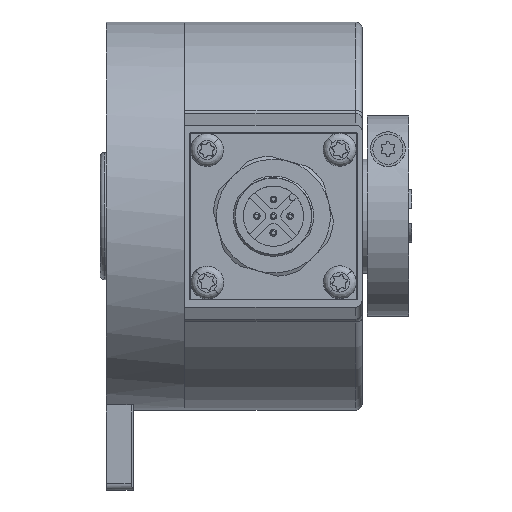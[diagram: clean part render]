
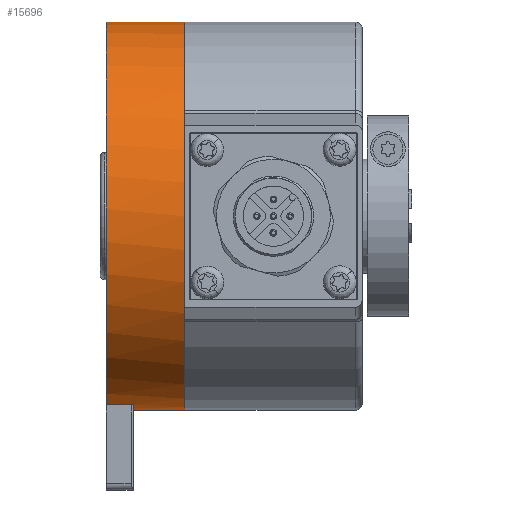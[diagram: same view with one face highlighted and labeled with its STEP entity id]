
A CAD part, front view. The second image highlights one B-rep face of the part: STEP entity #15696.
In plain terms, the highlighted cylindrical face has radius 29 mm (diameter 58 mm), a partial arc.
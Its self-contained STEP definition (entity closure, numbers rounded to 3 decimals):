
#3 = LINE ( 'NONE', #5117, #11417 ) ;
#111 = CARTESIAN_POINT ( 'NONE',  ( -3.622, 25.423, 0. ) ) ;
#316 = CARTESIAN_POINT ( 'NONE',  ( 8.068, 25.423, 0. ) ) ;
#553 = CARTESIAN_POINT ( 'NONE',  ( 0.378, 25.423, 0. ) ) ;
#569 = AXIS2_PLACEMENT_3D ( 'NONE', #7922, #1596, #14219 ) ;
#1308 = DIRECTION ( 'NONE',  ( 0., 0., -1. ) ) ;
#1335 = EDGE_CURVE ( 'NONE', #13570, #6097, #3413, .T. ) ;
#1411 = ORIENTED_EDGE ( 'NONE', *, *, #10548, .F. ) ;
#1596 = DIRECTION ( 'NONE',  ( 1., 0., 0. ) ) ;
#1691 = CARTESIAN_POINT ( 'NONE',  ( 8.068, 25.423, 29. ) ) ;
#1919 = EDGE_CURVE ( 'NONE', #10146, #4076, #13413, .T. ) ;
#2509 = CARTESIAN_POINT ( 'NONE',  ( 8.068, 25.423, -29. ) ) ;
#2983 = LINE ( 'NONE', #1691, #5229 ) ;
#3413 = CIRCLE ( 'NONE', #569, 29. ) ;
#3564 = DIRECTION ( 'NONE',  ( 1., 0., 0. ) ) ;
#3585 = AXIS2_PLACEMENT_3D ( 'NONE', #111, #3673, #1308 ) ;
#3673 = DIRECTION ( 'NONE',  ( 1., 0., 0. ) ) ;
#4017 = VECTOR ( 'NONE', #3564, 1000. ) ;
#4076 = VERTEX_POINT ( 'NONE', #7310 ) ;
#4089 = EDGE_LOOP ( 'NONE', ( #1411, #9615, #14930, #9606, #11449, #11268 ) ) ;
#4365 = DIRECTION ( 'NONE',  ( 1., 0., 0. ) ) ;
#5117 = CARTESIAN_POINT ( 'NONE',  ( 8.068, 18.423, -28.142 ) ) ;
#5178 = CYLINDRICAL_SURFACE ( 'NONE', #14310, 29. ) ;
#5229 = VECTOR ( 'NONE', #10189, 1000. ) ;
#5596 = DIRECTION ( 'NONE',  ( 0., 0., 1. ) ) ;
#5977 = VERTEX_POINT ( 'NONE', #8415 ) ;
#6097 = VERTEX_POINT ( 'NONE', #15187 ) ;
#7310 = CARTESIAN_POINT ( 'NONE',  ( -3.622, 18.423, -28.142 ) ) ;
#7766 = FACE_OUTER_BOUND ( 'NONE', #4089, .T. ) ;
#7857 = CIRCLE ( 'NONE', #11988, 29. ) ;
#7922 = CARTESIAN_POINT ( 'NONE',  ( 8.068, 25.423, 0. ) ) ;
#7946 = CARTESIAN_POINT ( 'NONE',  ( 0.378, 25.423, -29. ) ) ;
#8415 = CARTESIAN_POINT ( 'NONE',  ( 0.378, 18.423, -28.142 ) ) ;
#8852 = CARTESIAN_POINT ( 'NONE',  ( 8.068, 25.423, 29. ) ) ;
#9051 = DIRECTION ( 'NONE',  ( 0., 0., -1. ) ) ;
#9606 = ORIENTED_EDGE ( 'NONE', *, *, #15837, .T. ) ;
#9615 = ORIENTED_EDGE ( 'NONE', *, *, #1919, .T. ) ;
#9630 = LINE ( 'NONE', #2509, #4017 ) ;
#10023 = EDGE_CURVE ( 'NONE', #5977, #4076, #3, .T. ) ;
#10110 = DIRECTION ( 'NONE',  ( 1., 0., 0. ) ) ;
#10146 = VERTEX_POINT ( 'NONE', #13925 ) ;
#10189 = DIRECTION ( 'NONE',  ( 1., 0., 0. ) ) ;
#10548 = EDGE_CURVE ( 'NONE', #10146, #13570, #2983, .T. ) ;
#11268 = ORIENTED_EDGE ( 'NONE', *, *, #1335, .F. ) ;
#11417 = VECTOR ( 'NONE', #13767, 1000. ) ;
#11449 = ORIENTED_EDGE ( 'NONE', *, *, #15545, .T. ) ;
#11988 = AXIS2_PLACEMENT_3D ( 'NONE', #553, #4365, #5596 ) ;
#12890 = VERTEX_POINT ( 'NONE', #7946 ) ;
#13413 = CIRCLE ( 'NONE', #3585, 29. ) ;
#13570 = VERTEX_POINT ( 'NONE', #8852 ) ;
#13767 = DIRECTION ( 'NONE',  ( -1., 0., 0. ) ) ;
#13925 = CARTESIAN_POINT ( 'NONE',  ( -3.622, 25.423, 29. ) ) ;
#14219 = DIRECTION ( 'NONE',  ( 0., 0., -1. ) ) ;
#14310 = AXIS2_PLACEMENT_3D ( 'NONE', #316, #10110, #9051 ) ;
#14930 = ORIENTED_EDGE ( 'NONE', *, *, #10023, .F. ) ;
#15187 = CARTESIAN_POINT ( 'NONE',  ( 8.068, 25.423, -29. ) ) ;
#15545 = EDGE_CURVE ( 'NONE', #12890, #6097, #9630, .T. ) ;
#15696 = ADVANCED_FACE ( 'NONE', ( #7766 ), #5178, .T. ) ;
#15837 = EDGE_CURVE ( 'NONE', #5977, #12890, #7857, .T. ) ;
